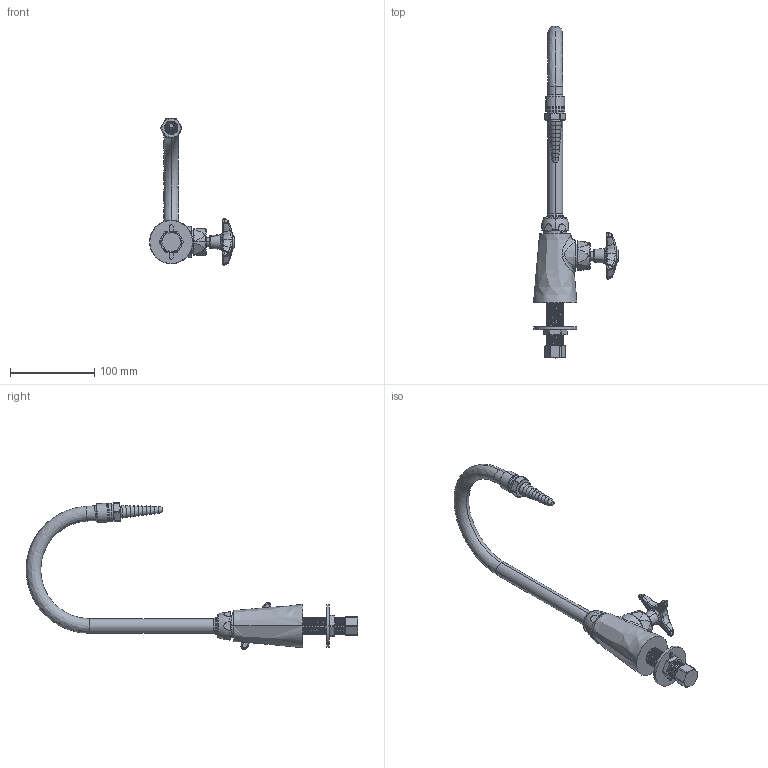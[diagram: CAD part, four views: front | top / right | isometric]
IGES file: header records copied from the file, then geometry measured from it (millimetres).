
Start section:  PTC IGES file: LWS1-B14-A.igs
Global section: file name: LWS1-B14-A.igs; native system: Creo Parametric by PTC Inc.; preprocessor: 2014500; author: usch_engrender; organization: Unknown; date: 20151202.200232; units: inch
Bounding box: 100.83 x 393.74 x 174.25 mm (x, y, z)
Volume: 244509.3 mm3; surface area: 78848.7 mm2
Topology: 1 solids, 4 shells, 463 faces, 1122 edges, 689 vertices
Faces by surface type: revolution 246, bspline 217
